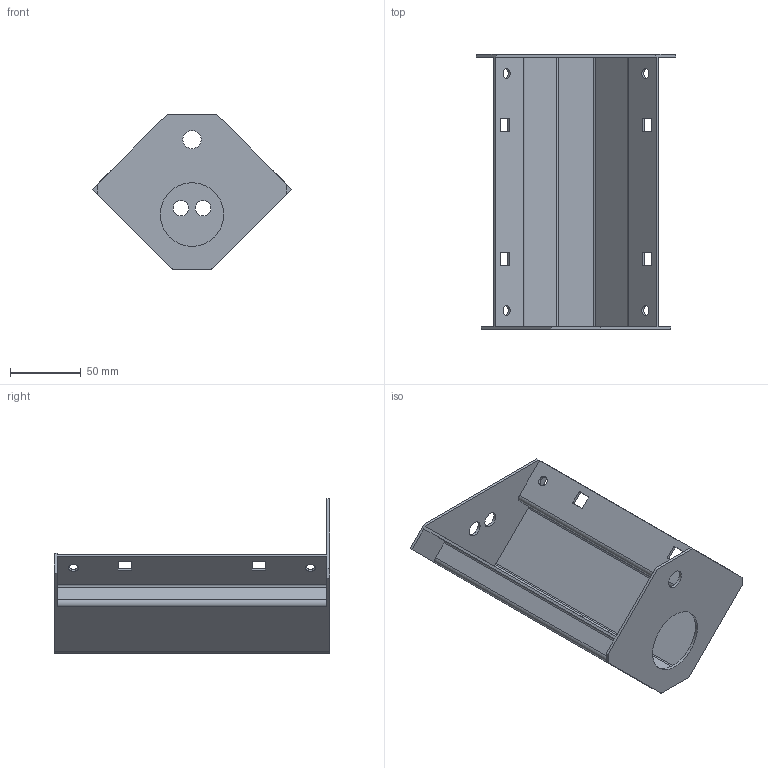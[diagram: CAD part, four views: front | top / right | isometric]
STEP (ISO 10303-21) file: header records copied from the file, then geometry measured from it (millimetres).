
FILE_DESCRIPTION (( 'STEP AP203' ), '1' );
FILE_NAME ('Z 200 I Óãëîâîé ýëåìåíò öîêîëÿ òåëåêîììóíèêàöèîííîãî.STEP', '2013-01-12T10:17:17', ( 'System' ), ( '' ), 'SwSTEP 2.0', 'SolidWorks 2012', '' );
FILE_SCHEMA (( 'CONFIG_CONTROL_DESIGN' ));
Length unit declared in the file: millimetre
Products named in the file (1): Z 200 I Óãëîâîé ýëåìåíò öîêîëÿ òåëåêîììóíèêàöèîííîãî
Bounding box: 141.42 x 195 x 109.74 mm (x, y, z)
Volume: 109889.9 mm3; surface area: 112178.2 mm2
Topology: 1 solids, 1 shells, 88 faces, 258 edges, 172 vertices
Faces by surface type: cylinder 44, plane 44
Entity records: 3075 total; most frequent: DIRECTION 524, CARTESIAN_POINT 519, ORIENTED_EDGE 516, EDGE_CURVE 258, AXIS2_PLACEMENT_3D 177, VERTEX_POINT 172, LINE 170, VECTOR 170
